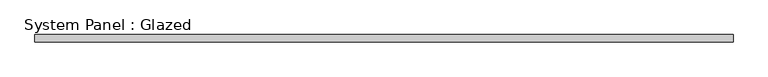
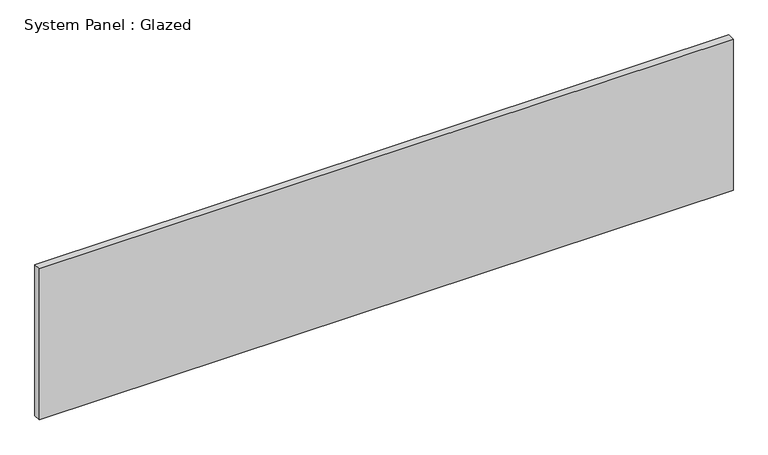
"""IFC4 building model written with IfcOpenShell, lengths in millimetres: plate geometry, System Panel : Glazed."""

from ifc_helpers import new_model, si_unit, origin, origin_with_axes, place, context, project, spatial, polyline, outline, extrude, source, transform, mapped, element, save


def system_panel_glazed_a178916c(model_context):
    return source(origin(), model_context, "Body", "SweptSolid", [
        extrude(outline(polyline([(1187.45, -44.45), (-1187.45, -44.45), (-1187.45, -19.05), (1187.45, -19.05), (1187.45, -44.45)])), origin_with_axes(), (0.0, 0.0, 1.0), 546.1),
    ])


if __name__ == "__main__":
    model = new_model("IFC4")
    model_context = context("Model", 3, world=origin())
    ifc_project = project(units=[si_unit("LENGTHUNIT", "METRE", prefix="MILLI")], contexts=[model_context])
    site = spatial("IfcSite", under=ifc_project)
    building = spatial("IfcBuilding", under=site)
    placement = place(None, origin())
    system_panel_glazed_shape = system_panel_glazed_a178916c(model_context)
    element("IfcPlate", 1, ObjectType="System Panel : Glazed", at=placement, inside=building, context=model_context, shape_type="MappedRepresentation", body=[
        mapped(system_panel_glazed_shape, transform((0.0, 0.0, 0.0), x_axis=(1.0, 0.0, 0.0), y_axis=(0.0, 1.0, 0.0), z_axis=(0.0, 0.0, 1.0))),
    ])
    save(model, "model.ifc")
